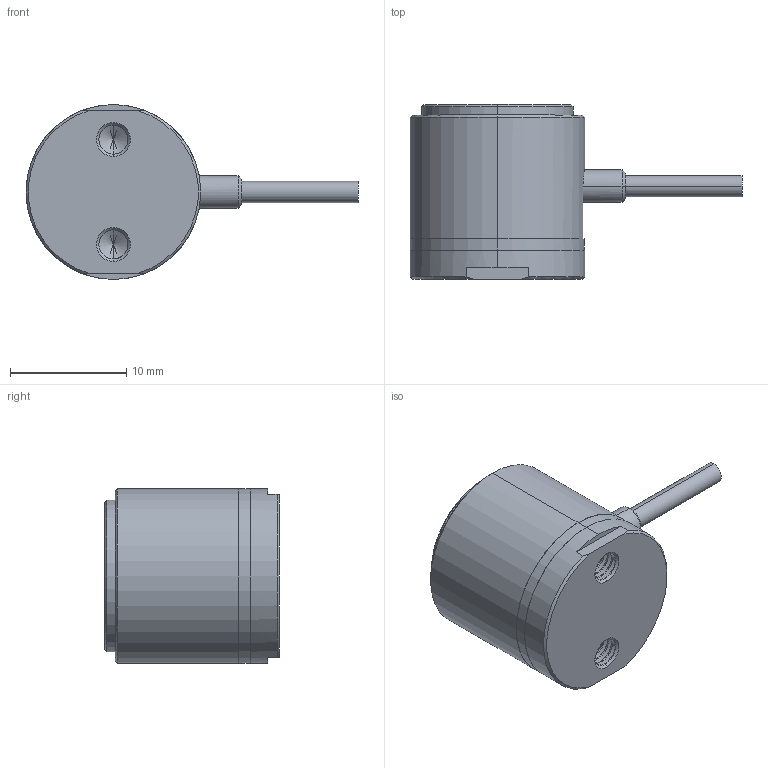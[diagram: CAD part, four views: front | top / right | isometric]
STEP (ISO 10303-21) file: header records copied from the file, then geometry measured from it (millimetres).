
FILE_DESCRIPTION (( 'STEP AP203' ), '1' );
FILE_NAME ('FCFK-1kN.STEP', '2024-07-16T08:18:48', ( '' ), ( '' ), 'SwSTEP 2.0', 'SolidWorks 2019', '' );
FILE_SCHEMA (( 'CONFIG_CONTROL_DESIGN' ));
Length unit declared in the file: millimetre
Products named in the file (1): FCFK-1kN
Bounding box: 28.5 x 15 x 15 mm (x, y, z)
Volume: 2489.8 mm3; surface area: 2165.8 mm2
Topology: 1 solids, 1 shells, 122 faces, 318 edges, 194 vertices
Faces by surface type: cylinder 62, cone 24, plane 23, bspline 13
Entity records: 5625 total; most frequent: CARTESIAN_POINT 2876, ORIENTED_EDGE 620, DIRECTION 506, EDGE_CURVE 310, VERTEX_POINT 194, AXIS2_PLACEMENT_3D 188, EDGE_LOOP 132, VECTOR 130
